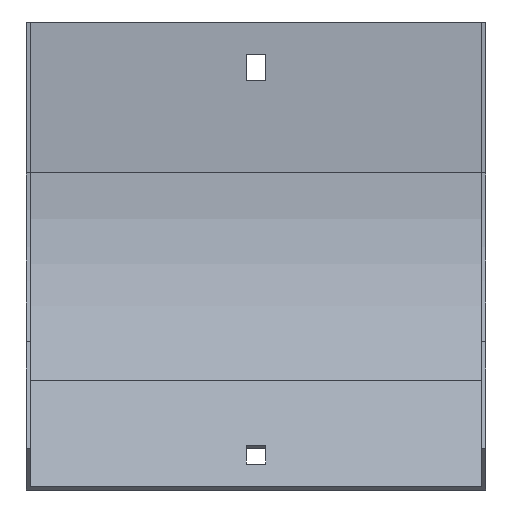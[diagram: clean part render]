
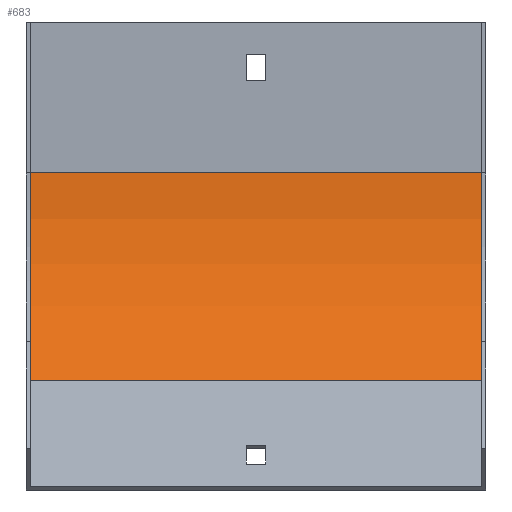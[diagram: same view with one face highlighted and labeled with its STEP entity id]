
A CAD part, front view. The second image highlights one B-rep face of the part: STEP entity #683.
In plain terms, the highlighted cylindrical face has radius 100 mm (diameter 200 mm), a partial arc.
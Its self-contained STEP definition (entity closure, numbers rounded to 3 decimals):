
#44 = CARTESIAN_POINT ( 'NONE',  ( 77., -101.5, -51.54 ) ) ;
#55 = VERTEX_POINT ( 'NONE', #332 ) ;
#89 = EDGE_CURVE ( 'NONE', #439, #55, #479, .T. ) ;
#98 = AXIS2_PLACEMENT_3D ( 'NONE', #694, #197, #729 ) ;
#103 = EDGE_CURVE ( 'NONE', #104, #439, #242, .T. ) ;
#104 = VERTEX_POINT ( 'NONE', #249 ) ;
#125 = EDGE_LOOP ( 'NONE', ( #214, #563, #375, #361 ) ) ;
#160 = VECTOR ( 'NONE', #704, 1000. ) ;
#162 = VERTEX_POINT ( 'NONE', #759 ) ;
#170 = AXIS2_PLACEMENT_3D ( 'NONE', #809, #419, #284 ) ;
#175 = CARTESIAN_POINT ( 'NONE',  ( 78.5, -30.789, -122.251 ) ) ;
#180 = DIRECTION ( 'NONE',  ( 0., 0., 1. ) ) ;
#197 = DIRECTION ( 'NONE',  ( 1., 0., 0. ) ) ;
#214 = ORIENTED_EDGE ( 'NONE', *, *, #89, .F. ) ;
#242 = LINE ( 'NONE', #175, #336 ) ;
#249 = CARTESIAN_POINT ( 'NONE',  ( 77., -30.789, -122.251 ) ) ;
#284 = DIRECTION ( 'NONE',  ( 0., 0., 1. ) ) ;
#308 = DIRECTION ( 'NONE',  ( -1., 0., 0. ) ) ;
#309 = DIRECTION ( 'NONE',  ( 1., 0., 0. ) ) ;
#332 = CARTESIAN_POINT ( 'NONE',  ( -77., -1.5, -51.54 ) ) ;
#336 = VECTOR ( 'NONE', #308, 1000. ) ;
#361 = ORIENTED_EDGE ( 'NONE', *, *, #517, .T. ) ;
#375 = ORIENTED_EDGE ( 'NONE', *, *, #549, .T. ) ;
#419 = DIRECTION ( 'NONE',  ( -1., 0., 0. ) ) ;
#430 = CIRCLE ( 'NONE', #551, 100. ) ;
#439 = VERTEX_POINT ( 'NONE', #578 ) ;
#479 = CIRCLE ( 'NONE', #98, 100. ) ;
#502 = FACE_OUTER_BOUND ( 'NONE', #125, .T. ) ;
#517 = EDGE_CURVE ( 'NONE', #162, #55, #842, .T. ) ;
#549 = EDGE_CURVE ( 'NONE', #104, #162, #430, .T. ) ;
#551 = AXIS2_PLACEMENT_3D ( 'NONE', #44, #309, #180 ) ;
#563 = ORIENTED_EDGE ( 'NONE', *, *, #103, .F. ) ;
#578 = CARTESIAN_POINT ( 'NONE',  ( -77., -30.789, -122.251 ) ) ;
#613 = CYLINDRICAL_SURFACE ( 'NONE', #170, 100. ) ;
#683 = ADVANCED_FACE ( 'NONE', ( #502 ), #613, .F. ) ;
#694 = CARTESIAN_POINT ( 'NONE',  ( -77., -101.5, -51.54 ) ) ;
#704 = DIRECTION ( 'NONE',  ( -1., 0., 0. ) ) ;
#729 = DIRECTION ( 'NONE',  ( 0., 0., 1. ) ) ;
#759 = CARTESIAN_POINT ( 'NONE',  ( 77., -1.5, -51.54 ) ) ;
#809 = CARTESIAN_POINT ( 'NONE',  ( 78.5, -101.5, -51.54 ) ) ;
#835 = CARTESIAN_POINT ( 'NONE',  ( 78.5, -1.5, -51.54 ) ) ;
#842 = LINE ( 'NONE', #835, #160 ) ;
